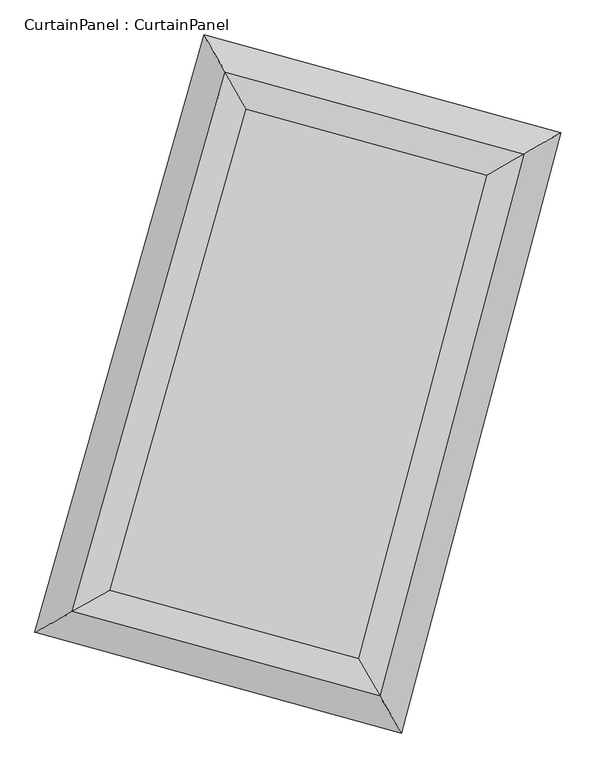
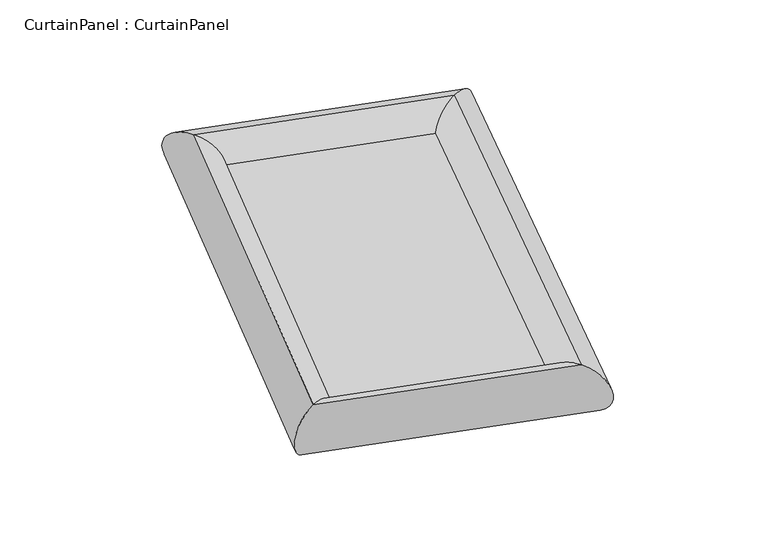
"""IFC4 building model written with IfcOpenShell, lengths in millimetres: plate geometry, CurtainPanel : CurtainPanel."""

import ifcopenshell
import ifcopenshell.guid

model = None  # the IFC model being written
_history = None  # IfcOwnerHistory: only IFC2X3 demands one
_inside = {}  # id of a spatial element -> (the spatial element, [elements in it])
_under = {}  # id of a project, library or spatial element -> (it, [spatial elements below it])
_declared = {}  # id of a project -> (the project, [libraries it declares])
_typed = {}  # id of a type object -> (the type object, [elements of that type])
_made_of = {}  # id of a material, layer set ... -> (it, [elements and type objects made of it])


def new_model(schema):
    """Start an empty IFC model of exactly this schema.

    Asked for "IFC4X3", IfcOpenShell would pick the latest addendum, in which some entities
    have other attributes; the version numbers below select the first issue.
    IFC2X3 requires an IfcOwnerHistory on every rooted entity: one is made here for all.
    """
    global model, _history
    if schema == "IFC4X3":
        model = ifcopenshell.file(schema_version=(4, 3, 0, 0))
    else:
        model = ifcopenshell.file(schema=schema)
    _inside.clear()
    _under.clear()
    _declared.clear()
    _typed.clear()
    _made_of.clear()
    _history = None
    if model.schema == "IFC2X3":
        org = make("IfcOrganization", Name="unknown")
        user = make(
            "IfcPersonAndOrganization",
            ThePerson=make("IfcPerson", FamilyName="unknown"),
            TheOrganization=org,
        )
        app = make(
            "IfcApplication",
            ApplicationDeveloper=org,
            Version="unknown",
            ApplicationFullName="unknown",
            ApplicationIdentifier="unknown",
        )
        _history = make(
            "IfcOwnerHistory",
            OwningUser=user,
            OwningApplication=app,
            ChangeAction="ADDED",
            CreationDate=0,
        )
    return model


def make(cls, **values):
    """One entity of the class cls with the attributes given. An attribute that is None is left unset."""
    return model.create_entity(
        cls, **{name: value for name, value in values.items() if value is not None}
    )


def rooted(cls, **values):
    """An entity with a GlobalId (a new one), such as an element, a storey or a relation."""
    return make(cls, GlobalId=ifcopenshell.guid.new(), OwnerHistory=_history, **values)


def si_unit(unit_type, name, prefix=None):
    """IfcSIUnit, for example si_unit("LENGTHUNIT", "METRE", prefix="MILLI")."""
    return make("IfcSIUnit", UnitType=unit_type, Prefix=prefix, Name=name)


def assignment(units):
    """IfcUnitAssignment: the units of a project."""
    return None if units is None else make("IfcUnitAssignment", Units=units)


def point(xyz):
    """IfcCartesianPoint."""
    return None if xyz is None else make("IfcCartesianPoint", Coordinates=xyz)


def direction(xyz):
    """IfcDirection."""
    return None if xyz is None else make("IfcDirection", DirectionRatios=xyz)


def frame(location, z_axis=None, x_axis=None):
    """IfcAxis2Placement3D, a coordinate frame: its origin and axes. An axis left out is left unset."""
    return make(
        "IfcAxis2Placement3D",
        Location=point(location),
        Axis=direction(z_axis),
        RefDirection=direction(x_axis),
    )


def origin():
    """The frame at (0, 0, 0) with its axes left unset."""
    return frame((0.0, 0.0, 0.0))


def origin_with_axes():
    """The frame at (0, 0, 0) with the z axis (0, 0, 1) and the x axis (1, 0, 0) written out."""
    return frame((0.0, 0.0, 0.0), z_axis=(0.0, 0.0, 1.0), x_axis=(1.0, 0.0, 0.0))


def place(relative_to, where):
    """IfcLocalPlacement: puts the frame where relative to a parent placement (None: the world)."""
    return make(
        "IfcLocalPlacement", PlacementRelTo=relative_to, RelativePlacement=where
    )


def context(
    kind, dimensions, precision=None, world=None, true_north=None, identifier=None
):
    """IfcGeometricRepresentationContext, for example the 3D "Model" context."""
    return make(
        "IfcGeometricRepresentationContext",
        ContextIdentifier=identifier,
        ContextType=kind,
        CoordinateSpaceDimension=dimensions,
        Precision=precision,
        WorldCoordinateSystem=world,
        TrueNorth=true_north,
    )


def project(units=None, contexts=None):
    """IfcProject with its units and contexts."""
    return rooted(
        "IfcProject",
        Name="project",
        RepresentationContexts=contexts,
        UnitsInContext=assignment(units),
    )


def spatial(cls, under=None, at=None, **own):
    """A site, building, storey or space (cls), placed at a placement, below another one or the project."""
    s = rooted(cls, ObjectPlacement=at, **own)
    if under is not None:
        _under.setdefault(under.id(), (under, []))[1].append(s)
    return s


def polyline(points):
    """IfcPolyline through the points."""
    return make("IfcPolyline", Points=[point(p) for p in points])


def ellipse_curve(where, semi_axis1, semi_axis2):
    """IfcEllipse in the frame where."""
    return make(
        "IfcEllipse", Position=where, SemiAxis1=semi_axis1, SemiAxis2=semi_axis2
    )


def outline(outer, holes=None, kind="AREA"):
    """IfcArbitraryClosedProfileDef: a profile drawn as a closed curve; with holes, ...WithVoids."""
    if holes is None:
        return make("IfcArbitraryClosedProfileDef", ProfileType=kind, OuterCurve=outer)
    return make(
        "IfcArbitraryProfileDefWithVoids",
        ProfileType=kind,
        OuterCurve=outer,
        InnerCurves=holes,
    )


def extrude(swept, where, along, depth):
    """IfcExtrudedAreaSolid: the profile swept, set in the frame where, extruded along a direction by depth."""
    return make(
        "IfcExtrudedAreaSolid",
        SweptArea=swept,
        Position=where,
        ExtrudedDirection=direction(along),
        Depth=depth,
    )


def shape(context_of_items, identifier, shape_type, items):
    """IfcShapeRepresentation: the items that make up one representation, for example the "Body"."""
    return make(
        "IfcShapeRepresentation",
        ContextOfItems=context_of_items,
        RepresentationIdentifier=identifier,
        RepresentationType=shape_type,
        Items=items,
    )


def source(mapping_origin, context_of_items, identifier, shape_type, items):
    """IfcRepresentationMap: a shape defined once, which mapped items show again and again."""
    return make(
        "IfcRepresentationMap",
        MappingOrigin=mapping_origin,
        MappedRepresentation=shape(context_of_items, identifier, shape_type, items),
    )


def transform(
    local_origin,
    x_axis=None,
    y_axis=None,
    z_axis=None,
    scale=None,
    scale2=None,
    scale3=None,
    uniform=True,
):
    """IfcCartesianTransformationOperator3D, or its non-uniform kind. x_axis, y_axis, z_axis: its Axis1, 2, 3."""
    if uniform:
        return make(
            "IfcCartesianTransformationOperator3D",
            Axis1=direction(x_axis),
            Axis2=direction(y_axis),
            LocalOrigin=point(local_origin),
            Scale=scale,
            Axis3=direction(z_axis),
        )
    return make(
        "IfcCartesianTransformationOperator3DnonUniform",
        Axis1=direction(x_axis),
        Axis2=direction(y_axis),
        LocalOrigin=point(local_origin),
        Scale=scale,
        Axis3=direction(z_axis),
        Scale2=scale2,
        Scale3=scale3,
    )


def mapped(mapping_source, mapping_target):
    """IfcMappedItem: shows the shape of a source again, moved by a transform."""
    return make(
        "IfcMappedItem", MappingSource=mapping_source, MappingTarget=mapping_target
    )


def made_of(thing, what):
    """Note that an element or type object is made of a material, layer set ...; save() writes the relation."""
    if what is not None:
        _made_of.setdefault(what.id(), (what, []))[1].append(thing)
    return thing


def element(
    cls,
    number,
    at=None,
    inside=None,
    cuts=None,
    type_object=None,
    material=None,
    context=None,
    identifier="Body",
    shape_type=None,
    held_by="IfcProductDefinitionShape",
    body=None,
    shapes=None,
    **own,
):
    """One element of the class cls, such as IfcWall. Its Tag is "e" and its number.

    at: its placement. inside: the storey or other place that contains it. cuts: it is an
    opening in that element (IfcRelVoidsElement). A single representation is given by context,
    identifier, shape_type and body (its items); several are given by shapes. held_by: the class
    of the entity that holds the representations. save() writes the other relations.
    """
    e = rooted(cls, Tag="e%d" % number, ObjectPlacement=at, **own)
    if body is not None:
        shapes = [shape(context, identifier, shape_type, body)]
    if shapes is not None:
        e.Representation = make(held_by, Representations=shapes)
    if inside is not None:
        _inside.setdefault(inside.id(), (inside, []))[1].append(e)
    if cuts is not None:
        rooted(
            "IfcRelVoidsElement", RelatingBuildingElement=cuts, RelatedOpeningElement=e
        )
    if type_object is not None:
        _typed.setdefault(type_object.id(), (type_object, []))[1].append(e)
    return made_of(e, material)


def aggregate(whole, parts):
    """IfcRelAggregates: a whole, such as a stair, and the parts it consists of."""
    return rooted("IfcRelAggregates", RelatingObject=whole, RelatedObjects=parts)


def save(model, path):
    """Write the relations noted so far, then the file.

    IfcRelAggregates (storeys below a building ...), IfcRelContainedInSpatialStructure (elements
    in a storey), IfcRelDefinesByType, IfcRelAssociatesMaterial and IfcRelDeclares: one each for
    every whole, place, type object, material and project.
    """
    for whole, parts in _under.values():
        aggregate(whole, parts)
    for where, things in _inside.values():
        rooted(
            "IfcRelContainedInSpatialStructure",
            RelatedElements=things,
            RelatingStructure=where,
        )
    for kind, things in _typed.values():
        rooted("IfcRelDefinesByType", RelatedObjects=things, RelatingType=kind)
    for what, things in _made_of.values():
        rooted("IfcRelAssociatesMaterial", RelatedObjects=things, RelatingMaterial=what)
    for by, libraries in _declared.values():
        rooted("IfcRelDeclares", RelatingContext=by, RelatedDefinitions=libraries)
    model.write(path)


def cylinder_surface(at, radius):
    """IfcCylindricalSurface: all points at the distance radius from the z axis of the frame at."""
    return make("IfcCylindricalSurface", Position=at, Radius=radius)


def advanced_brep(points, edges, surfaces, faces):
    """IfcAdvancedBrep: a solid bounded by faces that lie on surfaces and meet in shared edges.

    An edge is (start, end): straight between two places in points (the first is 0);
    or (start, end, curve); or (start, end, curve, False) where it runs against its curve.
    A face is (place in surfaces, loops), or (place, loops, False) where it looks against
    its surface's normal. A loop lists edges by number (the first is 1), with a minus sign
    where the edge is run from its end to its start. The first loop is the outer one.
    """
    corners = [point(p) for p in points]
    vertices = [make("IfcVertexPoint", VertexGeometry=c) for c in corners]
    made = []
    for start, end, *more in edges:
        made.append(
            make(
                "IfcEdgeCurve",
                EdgeStart=vertices[start],
                EdgeEnd=vertices[end],
                EdgeGeometry=more[0] if more else make("IfcPolyline", Points=[corners[start], corners[end]]),
                SameSense=more[1] if len(more) > 1 else True,
            )
        )
    hull = []
    for where, loops, *sense in faces:
        bounds = []
        for j, loop in enumerate(loops):
            ring = [make("IfcOrientedEdge", EdgeElement=made[abs(k) - 1], Orientation=k > 0) for k in loop]
            bounds.append(
                make(
                    "IfcFaceOuterBound" if j == 0 else "IfcFaceBound",
                    Bound=make("IfcEdgeLoop", EdgeList=ring),
                    Orientation=True,
                )
            )
        hull.append(make("IfcAdvancedFace", Bounds=bounds, FaceSurface=surfaces[where], SameSense=sense[0] if sense else True))
    return make("IfcAdvancedBrep", Outer=make("IfcClosedShell", CfsFaces=hull))


def curtainpanel_curtainpanel_a06fb718(model_context):
    return source(origin(), model_context, "Body", "SolidModel", [
        extrude(outline(polyline([(2921.0116776, 2921.0116776), (4026.515411, 6825.5054339), (6190.9422969, 6231.778906), (5149.5306145, 2309.7039825), (2921.0116776, 2921.0116776)])), origin_with_axes(), (0.0, 0.0, 1.0), 20.0),
        advanced_brep(
        [(2921.0116776, 2921.0116776, -220.0), (2921.0116776, 2921.0116776, 220.0), (5149.5306145, 2309.7039825, 220.0), (5149.5306145, 2309.7039825, -220.0), (6190.9422969, 6231.778906, 220.0), (6190.9422969, 6231.778906, -220.0), (4026.515411, 6825.5054339, 220.0), (4026.515411, 6825.5054339, -220.0)],
        [
            (0, 1, ellipse_curve(frame((2921.0116776, 2921.0116776, 0.0), z_axis=(0.49129680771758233, -0.8709922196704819, 0.0), x_axis=(-0.8709922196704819, -0.4912968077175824, 0.0)), 312.4087334, 220.0)),
            (1, 2),
            (2, 3, ellipse_curve(frame((5149.5306145, 2309.7039825, 0.0), z_axis=(-0.8669399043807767, -0.49841268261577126, 0.0), x_axis=(-0.4984126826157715, 0.8669399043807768, 0.0)), 312.4087334, 220.0)),
            (3, 0),
            (1, 0, ellipse_curve(frame((2921.0116776, 2921.0116776, 0.0), z_axis=(0.49129680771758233, -0.8709922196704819, 0.0), x_axis=(-0.8709922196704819, -0.4912968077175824, 0.0)), 312.4087334, 220.0)),
            (3, 2, ellipse_curve(frame((5149.5306145, 2309.7039825, 0.0), z_axis=(-0.8669399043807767, -0.49841268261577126, 0.0), x_axis=(-0.4984126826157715, 0.8669399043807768, 0.0)), 312.4087334, 220.0)),
            (2, 4),
            (4, 5, ellipse_curve(frame((6190.9422969, 6231.778906, 0.0), z_axis=(0.4984126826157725, -0.8669399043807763, 0.0), x_axis=(-0.8669399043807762, -0.4984126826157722, 0.0)), 309.860882, 220.0)),
            (5, 3),
            (5, 4, ellipse_curve(frame((6190.9422969, 6231.778906, 0.0), z_axis=(0.4984126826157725, -0.8669399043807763, 0.0), x_axis=(-0.8669399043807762, -0.4984126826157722, 0.0)), 309.860882, 220.0)),
            (4, 6),
            (6, 7, ellipse_curve(frame((4026.515411, 6825.5054339, 0.0), z_axis=(0.8709922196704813, 0.49129680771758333, 0.0), x_axis=(0.4912968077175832, -0.8709922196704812, 0.0)), 309.860882, 220.0)),
            (7, 5),
            (7, 6, ellipse_curve(frame((4026.515411, 6825.5054339, 0.0), z_axis=(0.8709922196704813, 0.49129680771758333, 0.0), x_axis=(0.4912968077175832, -0.8709922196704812, 0.0)), 309.860882, 220.0)),
            (6, 1),
            (0, 7),
        ],
        [
            cylinder_surface(frame((2921.0116776, 2921.0116776, 0.0), z_axis=(-0.9643750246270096, 0.264538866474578, 0.0), x_axis=(0.264538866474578, 0.9643750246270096, 0.0)), 220.0),
            cylinder_surface(frame((5149.5306145, 2309.7039825, 0.0), z_axis=(-0.2566329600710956, -0.9665089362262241, 0.0), x_axis=(-0.9665089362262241, 0.2566329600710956, 0.0)), 220.0),
            cylinder_surface(frame((6190.9422969, 6231.778906, 0.0), z_axis=(0.9643750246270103, -0.2645388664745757, 0.0), x_axis=(-0.2645388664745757, -0.9643750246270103, 0.0)), 220.0),
            cylinder_surface(frame((4026.515411, 6825.5054339, 0.0), z_axis=(0.2724270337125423, 0.9621764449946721, 0.0), x_axis=(0.9621764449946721, -0.2724270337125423, 0.0)), 220.0),
        ],
        [
            (0, [[1, 2, 3, 4]]),
            (0, [[5, -4, 6, -2]]),
            (1, [[-3, 7, 8, 9]]),
            (1, [[-6, -9, 10, -7]]),
            (2, [[-8, 11, 12, 13]]),
            (2, [[-10, -13, 14, -11]]),
            (3, [[-12, 15, -1, 16]]),
            (3, [[-14, -16, -5, -15]]),
        ],
    ),
    ])


if __name__ == "__main__":
    model = new_model("IFC4")
    model_context = context("Model", 3, world=origin())
    ifc_project = project(units=[si_unit("LENGTHUNIT", "METRE", prefix="MILLI")], contexts=[model_context])
    site = spatial("IfcSite", under=ifc_project)
    building = spatial("IfcBuilding", under=site)
    placement = place(None, origin())
    curtainpanel_curtainpanel_shape = curtainpanel_curtainpanel_a06fb718(model_context)
    element("IfcPlate", 1, ObjectType="CurtainPanel : CurtainPanel", at=placement, inside=building, context=model_context, shape_type="MappedRepresentation", body=[
        mapped(curtainpanel_curtainpanel_shape, transform((0.0, 0.0, 0.0), x_axis=(1.0, 0.0, 0.0), y_axis=(0.0, 1.0, 0.0), z_axis=(0.0, 0.0, 1.0))),
    ])
    save(model, "model.ifc")
